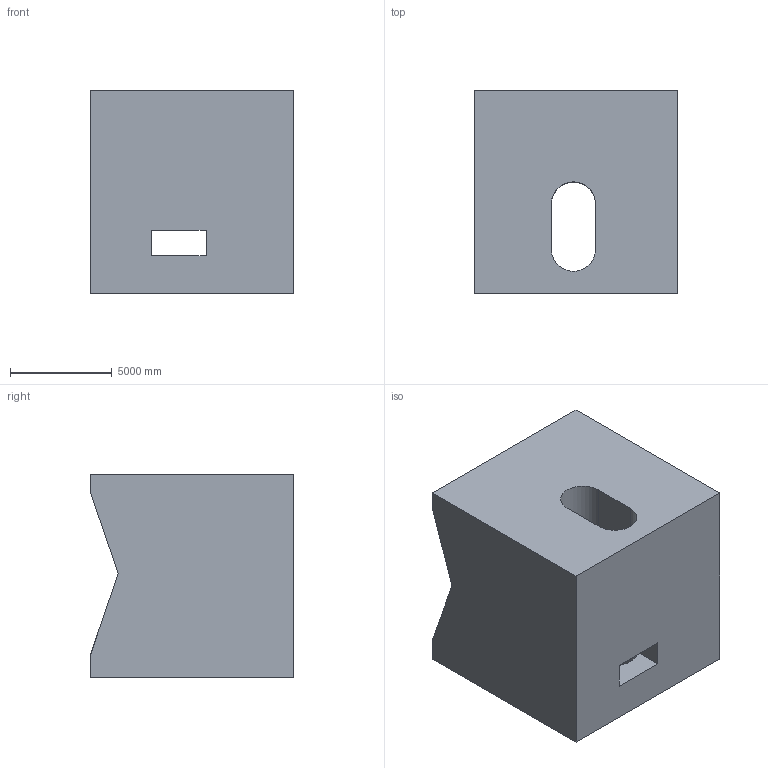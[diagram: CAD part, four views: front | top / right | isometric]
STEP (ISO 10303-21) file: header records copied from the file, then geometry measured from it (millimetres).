
FILE_DESCRIPTION (( 'STEP AP203' ), '1' );
FILE_NAME ('1327.STEP', '2022-08-18T13:47:38', ( 'user' ), ( '' ), 'SwSTEP 2.0', 'SolidWorks 2021', '' );
FILE_SCHEMA (( 'CONFIG_CONTROL_DESIGN' ));
Length unit declared in the file: centimetre
Products named in the file (1): 1327
Bounding box: 10000 x 10000 x 10000 mm (x, y, z)
Volume: 825105278027.3 mm3; surface area: 733708385.1 mm2
Topology: 1 solids, 1 shells, 24 faces, 72 edges, 48 vertices
Faces by surface type: plane 21, cylinder 3
Entity records: 895 total; most frequent: CARTESIAN_POINT 145, ORIENTED_EDGE 144, DIRECTION 132, EDGE_CURVE 72, VECTOR 62, LINE 62, VERTEX_POINT 48, AXIS2_PLACEMENT_3D 35
